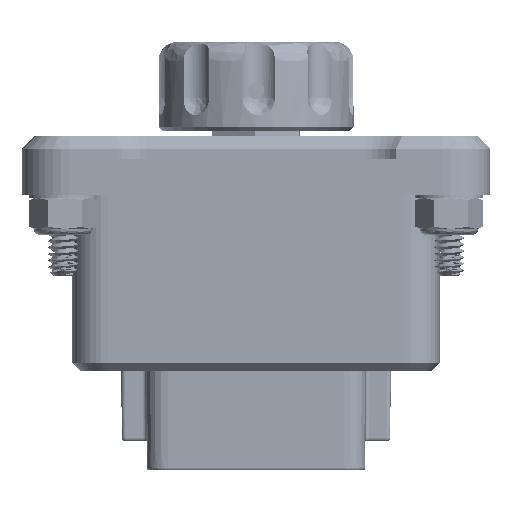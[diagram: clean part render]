
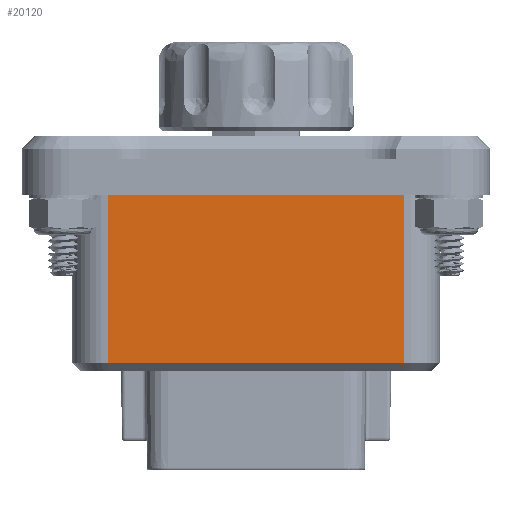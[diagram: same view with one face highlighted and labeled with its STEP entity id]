
A CAD part, front view. The second image highlights one B-rep face of the part: STEP entity #20120.
In plain terms, the highlighted planar face has unit normal (0, -1, 0) as drawn and (-1, 0, 0) by its records, which use the part's own axes.
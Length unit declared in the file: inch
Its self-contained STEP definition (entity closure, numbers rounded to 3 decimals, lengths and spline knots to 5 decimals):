
#241 = VECTOR ( 'NONE', #115804, 39.37008 ) ;
#3968 = EDGE_LOOP ( 'NONE', ( #92397, #16989, #25426, #114234 ) ) ;
#7830 = CARTESIAN_POINT ( 'NONE',  ( -1.11305, -0.95184, 0. ) ) ;
#16989 = ORIENTED_EDGE ( 'NONE', *, *, #45340, .F. ) ;
#18797 = DIRECTION ( 'NONE',  ( 0., 1., 0. ) ) ;
#20120 = ADVANCED_FACE ( 'NONE', ( #46426 ), #69458, .F. ) ;
#20798 = EDGE_CURVE ( 'NONE', #114805, #130277, #57839, .T. ) ;
#25426 = ORIENTED_EDGE ( 'NONE', *, *, #47888, .T. ) ;
#40226 = CARTESIAN_POINT ( 'NONE',  ( -1.11305, 0.95184, -1.13 ) ) ;
#43148 = CARTESIAN_POINT ( 'NONE',  ( -1.11305, -0.95184, -1.08 ) ) ;
#45340 = EDGE_CURVE ( 'NONE', #70672, #137224, #92638, .T. ) ;
#46426 = FACE_OUTER_BOUND ( 'NONE', #3968, .T. ) ;
#47888 = EDGE_CURVE ( 'NONE', #70672, #130277, #59260, .T. ) ;
#48214 = CARTESIAN_POINT ( 'NONE',  ( -1.11305, -0.95184, -1.13 ) ) ;
#50277 = CARTESIAN_POINT ( 'NONE',  ( -1.11305, 0.95184, -1.08 ) ) ;
#54958 = DIRECTION ( 'NONE',  ( 0., 0., -1. ) ) ;
#57839 = LINE ( 'NONE', #40226, #241 ) ;
#59093 = DIRECTION ( 'NONE',  ( 0., 0., -1. ) ) ;
#59260 = LINE ( 'NONE', #137420, #116686 ) ;
#62957 = CARTESIAN_POINT ( 'NONE',  ( -1.11305, -0.95184, -1.08 ) ) ;
#69458 = PLANE ( 'NONE',  #100594 ) ;
#70672 = VERTEX_POINT ( 'NONE', #7830 ) ;
#71445 = LINE ( 'NONE', #43148, #125503 ) ;
#76765 = CARTESIAN_POINT ( 'NONE',  ( -1.11305, 0.95184, 0. ) ) ;
#87524 = DIRECTION ( 'NONE',  ( 0., 1., 0. ) ) ;
#92397 = ORIENTED_EDGE ( 'NONE', *, *, #119577, .F. ) ;
#92638 = LINE ( 'NONE', #119198, #117988 ) ;
#100594 = AXIS2_PLACEMENT_3D ( 'NONE', #48214, #123747, #59093 ) ;
#114234 = ORIENTED_EDGE ( 'NONE', *, *, #20798, .F. ) ;
#114805 = VERTEX_POINT ( 'NONE', #50277 ) ;
#115804 = DIRECTION ( 'NONE',  ( 0., 0., 1. ) ) ;
#116686 = VECTOR ( 'NONE', #18797, 39.37008 ) ;
#117988 = VECTOR ( 'NONE', #54958, 39.37008 ) ;
#119198 = CARTESIAN_POINT ( 'NONE',  ( -1.11305, -0.95184, -1.13 ) ) ;
#119577 = EDGE_CURVE ( 'NONE', #137224, #114805, #71445, .T. ) ;
#123747 = DIRECTION ( 'NONE',  ( 1., 0., 0. ) ) ;
#125503 = VECTOR ( 'NONE', #87524, 39.37008 ) ;
#130277 = VERTEX_POINT ( 'NONE', #76765 ) ;
#137224 = VERTEX_POINT ( 'NONE', #62957 ) ;
#137420 = CARTESIAN_POINT ( 'NONE',  ( -1.11305, 1.2, 0. ) ) ;
